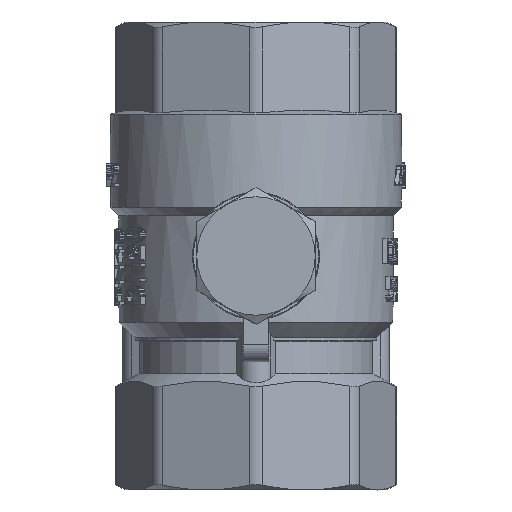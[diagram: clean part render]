
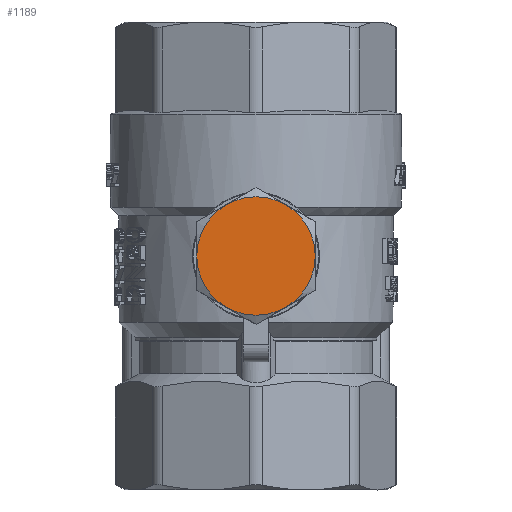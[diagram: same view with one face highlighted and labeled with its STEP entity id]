
A CAD part, front view. The second image highlights one B-rep face of the part: STEP entity #1189.
In plain terms, the highlighted planar face has unit normal (0, -1, 0).
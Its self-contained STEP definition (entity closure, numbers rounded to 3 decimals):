
#1189=ADVANCED_FACE('',(#10156),#10158,.T.);
#10156=FACE_BOUND('',#10157,.T.);
#10157=EDGE_LOOP('',(#20757,#20758,#20759,#20760,#20761));
#10158=PLANE('',#10159);
#10159=AXIS2_PLACEMENT_3D('',#10160,#10161,#10162);
#10160=CARTESIAN_POINT('',(0.,-34.5,0.));
#10161=DIRECTION('',(0.,-1.,0.));
#10162=DIRECTION('',(1.,0.,0.));
#20757=ORIENTED_EDGE('',*,*,#26651,.T.);
#20758=ORIENTED_EDGE('',*,*,#26650,.T.);
#20759=ORIENTED_EDGE('',*,*,#26654,.T.);
#20760=ORIENTED_EDGE('',*,*,#26653,.T.);
#20761=ORIENTED_EDGE('',*,*,#26652,.T.);
#26650=EDGE_CURVE('',#33662,#33686,#33855,.F.);
#26651=EDGE_CURVE('',#33668,#33662,#33856,.F.);
#26652=EDGE_CURVE('',#33676,#33668,#33857,.F.);
#26653=EDGE_CURVE('',#33681,#33676,#33858,.F.);
#26654=EDGE_CURVE('',#33686,#33681,#33859,.F.);
#33662=VERTEX_POINT('',#57772);
#33668=VERTEX_POINT('',#57829);
#33676=VERTEX_POINT('',#57937);
#33681=VERTEX_POINT('',#57991);
#33686=VERTEX_POINT('',#58057);
#33855=CIRCLE('',#59170,7.);
#33856=CIRCLE('',#59174,7.);
#33857=CIRCLE('',#59178,7.);
#33858=CIRCLE('',#59182,7.);
#33859=CIRCLE('',#59186,7.);
#57772=CARTESIAN_POINT('',(3.5,-34.5,6.062));
#57829=CARTESIAN_POINT('',(7.,-34.5,0.));
#57937=CARTESIAN_POINT('',(-3.5,-34.5,-6.062));
#57991=CARTESIAN_POINT('',(-7.,-34.5,0.));
#58057=CARTESIAN_POINT('',(-3.5,-34.5,6.062));
#59170=AXIS2_PLACEMENT_3D('',#59171,#59172,#59173);
#59171=CARTESIAN_POINT('',(0.,-34.5,0.));
#59172=DIRECTION('',(0.,1.,0.));
#59173=DIRECTION('',(-0.5,0.,0.866));
#59174=AXIS2_PLACEMENT_3D('',#59175,#59176,#59177);
#59175=CARTESIAN_POINT('',(0.,-34.5,0.));
#59176=DIRECTION('',(0.,1.,0.));
#59177=DIRECTION('',(0.5,0.,0.866));
#59178=AXIS2_PLACEMENT_3D('',#59179,#59180,#59181);
#59179=CARTESIAN_POINT('',(0.,-34.5,0.));
#59180=DIRECTION('',(0.,1.,0.));
#59181=DIRECTION('',(1.,0.,0.));
#59182=AXIS2_PLACEMENT_3D('',#59183,#59184,#59185);
#59183=CARTESIAN_POINT('',(0.,-34.5,0.));
#59184=DIRECTION('',(0.,1.,0.));
#59185=DIRECTION('',(-0.5,0.,-0.866));
#59186=AXIS2_PLACEMENT_3D('',#59187,#59188,#59189);
#59187=CARTESIAN_POINT('',(0.,-34.5,0.));
#59188=DIRECTION('',(0.,1.,0.));
#59189=DIRECTION('',(-1.,0.,0.));
